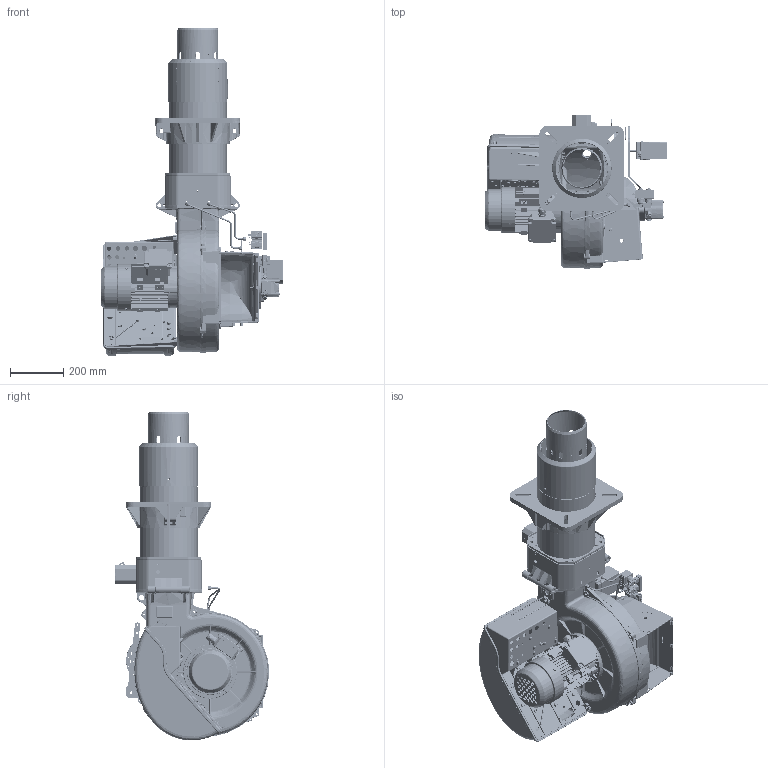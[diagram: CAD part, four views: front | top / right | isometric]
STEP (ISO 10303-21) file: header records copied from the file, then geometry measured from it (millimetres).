
FILE_DESCRIPTION (( 'STEP AP203' ), '1' );
FILE_NAME ('56570010.STEP', '2023-07-25T10:06:55', ( '' ), ( '' ), 'SwSTEP 2.0', 'SolidWorks 2021', '' );
FILE_SCHEMA (( 'CONFIG_CONTROL_DESIGN' ));
Length unit declared in the file: millimetre
Products named in the file (1): 56570010
Bounding box: 689 x 580.54 x 1239.19 mm (x, y, z)
Surface area: 6011373 mm2 (no closed solid volume)
Topology: 0 solids, 205 shells, 14051 faces, 36892 edges, 23364 vertices
Faces by surface type: plane 4886, bspline 4619, cylinder 3576, cone 583, torus 341, sphere 46
Full cylindrical faces by diameter (mm): 1.65 x9, 2 x10, 2.15 x2, 2.459 x3, 2.88 x1, 3 x2, 3.242 x3, 3.3 x15, 3.5 x4, 3.7 x14, 3.82 x2, 4 x9, 4.1 x4, 4.2 x13, 4.3 x8, 4.5 x19, 4.58 x8, 4.7 x4, 4.8 x3, 5 x14, 5.1 x2, 5.2 x2, 5.3 x4, 5.5 x4, 5.8 x3, 6 x27, 6.2 x4, 6.25 x5, 6.5 x10, 6.6 x12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
Entity records: 793182 total; most frequent: CARTESIAN_POINT 494216, ORIENTED_EDGE 69292, DIRECTION 45237, EDGE_CURVE 35244, VERTEX_POINT 23000, EDGE_LOOP 16475, VECTOR 15705, LINE 15705
